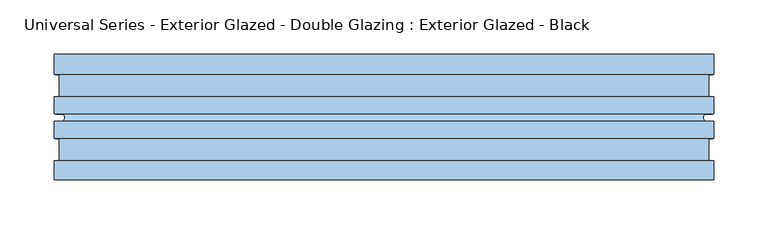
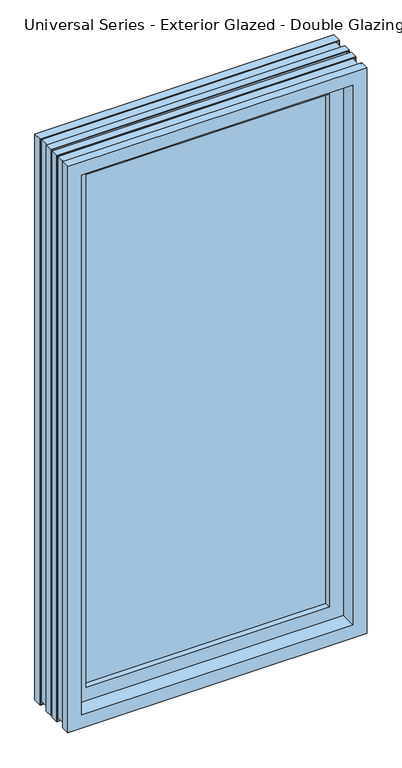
"""IFC4 building model written with IfcOpenShell, lengths in millimetres: window geometry, Universal Series - Exterior Glazed - Double Glazing : Exterior Glazed - Black."""

from ifc_helpers import new_model, si_unit, frame, origin, place, context, project, spatial, polyline, ellipse_curve, outline, extrude, faceted_brep, source, transform, mapped, element, save
from ifc_brep_helpers import plane_surface, revolved_surface, advanced_brep


def universal_series_exterior_glazed_double_glazing_exterior_db7a54f3(model_context):
    return source(origin(), model_context, "Body", "SolidModel", [
        extrude(outline(polyline([(276.225, 101.2023079), (276.225, 96.0429329), (-276.225, 96.0429329), (-276.225, 101.2023079), (276.225, 101.2023079)])), frame((0.0, 0.0, 790.575), z_axis=(0.0, 0.0, 1.0), x_axis=(1.0, 0.0, 0.0)), (0.0, 0.0, 1.0), 1162.05),
        extrude(outline(polyline([(276.225, 77.7866829), (276.225, 72.6273079), (-276.225, 72.6273079), (-276.225, 77.7866829), (276.225, 77.7866829)])), frame((0.0, 0.0, 790.575), z_axis=(0.0, 0.0, 1.0), x_axis=(1.0, 0.0, 0.0)), (0.0, 0.0, 1.0), 1162.05),
        faceted_brep([(276.225, 121.8398079, 1952.625), (252.4125, 101.2023079, 1928.8125), (252.4125, 101.2023079, 814.3875), (276.225, 121.8398079, 790.575), (-252.4125, 101.2023079, 814.3875), (-276.225, 121.8398079, 790.575), (-252.4125, 101.2023079, 1928.8125), (-246.0625, 101.2023079, 820.7375), (-246.0625, 101.2023079, 1922.4625), (246.0625, 101.2023079, 1922.4625), (246.0625, 101.2023079, 820.7375), (-276.225, 121.8398079, 1952.625), (276.225, 140.8898079, 790.575), (-276.225, 140.8898079, 790.575), (276.225, 140.8898079, 1952.625), (-276.225, 140.8898079, 1952.625), (285.75, 140.8898079, 781.05), (285.75, 140.8898079, 1962.15), (-285.75, 140.8898079, 1962.15), (-285.75, 140.8898079, 781.05), (285.75, 142.4773079, 1962.15), (285.75, 142.4773079, 781.05), (-285.75, 142.4773079, 781.05), (-285.75, 142.4773079, 1962.15), (250.825, 142.4773079, 815.975), (250.825, 142.4773079, 1927.225), (-250.825, 142.4773079, 1927.225), (-250.825, 142.4773079, 815.975)], [[[0, 1, 2, 3]], [[3, 2, 4, 5]], [[2, 1, 6, 4], [7, 8, 9, 10]], [[5, 4, 6, 11]], [[12, 3, 5, 13]], [[14, 0, 3, 12]], [[13, 5, 11, 15]], [[16, 17, 18, 19], [13, 15, 14, 12]], [[20, 17, 16, 21]], [[21, 16, 19, 22]], [[22, 19, 18, 23]], [[22, 23, 20, 21], [24, 25, 26, 27]], [[9, 25, 24, 10]], [[10, 24, 27, 7]], [[7, 27, 26, 8]], [[11, 6, 1, 0]], [[15, 11, 0, 14]], [[23, 18, 17, 20]], [[8, 26, 25, 9]]]),
        advanced_brep(
        [(304.8, 44.0523079, 1981.2), (304.8, 26.5898079, 1981.2), (304.8, 26.5898079, 762.0), (304.8, 44.0523079, 762.0), (-304.8, 26.5898079, 762.0), (-304.8, 44.0523079, 762.0), (-304.8, 26.5898079, 1981.2), (-276.225, 26.5898079, 790.575), (-276.225, 26.5898079, 1952.625), (276.225, 26.5898079, 1952.625), (276.225, 26.5898079, 790.575), (-304.8, 44.0523079, 1981.2), (303.609375, 44.0523079, 763.190625), (303.609375, 44.0523079, 1980.009375), (-303.609375, 44.0523079, 1980.009375), (-303.609375, 44.0523079, 763.190625), (302.021875, 40.8773079, 1978.421875), (302.021875, 40.8773079, 764.778125), (-302.021875, 40.8773079, 764.778125), (-302.021875, 40.8773079, 1978.421875), (300.0375, 40.8773079, 766.7625), (300.0375, 40.8773079, 1976.4375), (-300.0375, 40.8773079, 1976.4375), (-300.0375, 40.8773079, 766.7625), (300.0375, 67.8648079, 1976.4375), (300.0375, 67.8648079, 766.7625), (-300.0375, 67.8648079, 766.7625), (-300.0375, 67.8648079, 1976.4375), (302.021875, 67.8648079, 764.778125), (302.021875, 67.8648079, 1978.421875), (-302.021875, 67.8648079, 1978.421875), (-302.021875, 67.8648079, 764.778125), (303.609375, 64.6898079, 1980.009375), (303.609375, 64.6898079, 763.190625), (-303.609375, 64.6898079, 763.190625), (-303.609375, 64.6898079, 1980.009375), (304.8, 64.6898079, 762.0), (304.8, 64.6898079, 1981.2), (-304.8, 64.6898079, 1981.2), (-304.8, 64.6898079, 762.0), (304.8, 80.5648079, 1981.2), (304.8, 80.5648079, 762.0), (-304.8, 80.5648079, 762.0), (-304.8, 80.5648079, 1981.2), (303.2125, 80.5648079, 763.5875), (303.2125, 80.5648079, 1979.6125), (-303.2125, 80.5648079, 1979.6125), (-303.2125, 80.5648079, 763.5875), (303.2125, 87.3, 1979.6125), (303.2125, 87.3, 763.5875), (-303.2125, 87.3, 763.5875), (-303.2125, 87.3, 1979.6125), (304.8, 87.3, 762.0), (304.8, 87.3, 1981.2), (-304.8, 87.3, 1981.2), (-304.8, 87.3, 762.0), (304.8, 103.175, 1981.2), (304.8, 103.175, 762.0), (-304.8, 103.175, 762.0), (-304.8, 103.175, 1981.2), (303.609375, 103.175, 763.190625), (303.609375, 103.175, 1980.009375), (-303.609375, 103.175, 1980.009375), (-303.609375, 103.175, 763.190625), (302.021875, 100.0, 1978.421875), (302.021875, 100.0, 764.778125), (-302.021875, 100.0, 764.778125), (-302.021875, 100.0, 1978.421875), (300.0375, 100.0, 766.7625), (300.0375, 100.0, 1976.4375), (-300.0375, 100.0, 1976.4375), (-300.0375, 100.0, 766.7625), (300.0375, 126.9875, 1976.4375), (300.0375, 126.9875, 766.7625), (-300.0375, 126.9875, 766.7625), (-300.0375, 126.9875, 1976.4375), (302.021875, 126.9875, 764.778125), (302.021875, 126.9875, 1978.421875), (-302.021875, 126.9875, 1978.421875), (-302.021875, 126.9875, 764.778125), (303.609375, 123.8125, 1980.009375), (303.609375, 123.8125, 763.190625), (-303.609375, 123.8125, 763.190625), (-303.609375, 123.8125, 1980.009375), (304.8, 123.8125, 762.0), (304.8, 123.8125, 1981.2), (-304.8, 123.8125, 1981.2), (-304.8, 123.8125, 762.0), (304.8, 142.4773079, 1981.2), (304.8, 142.4773079, 762.0), (-304.8, 142.4773079, 762.0), (-304.8, 142.4773079, 1981.2), (285.75, 142.4773079, 781.05), (285.75, 142.4773079, 1962.15), (-285.75, 142.4773079, 1962.15), (-285.75, 142.4773079, 781.05), (285.75, 128.1898079, 1962.15), (285.75, 128.1898079, 781.05), (-285.75, 128.1898079, 781.05), (-285.75, 128.1898079, 1962.15), (276.225, 128.1898079, 790.575), (276.225, 128.1898079, 1952.625), (-276.225, 128.1898079, 1952.625), (-276.225, 128.1898079, 790.575), (276.225, 72.6273079, 1952.625), (276.225, 72.6273079, 790.575), (-276.225, 72.6273079, 790.575), (-276.225, 72.6273079, 1952.625), (247.65, 72.6273079, 819.15), (247.65, 72.6273079, 1924.05), (-247.65, 72.6273079, 1924.05), (-247.65, 72.6273079, 819.15), (247.65, 59.9273079, 1924.05), (247.65, 59.9273079, 819.15), (-247.65, 59.9273079, 819.15), (-247.65, 59.9273079, 1924.05), (276.225, 59.9273079, 790.575), (276.225, 59.9273079, 1952.625), (-276.225, 59.9273079, 1952.625), (-276.225, 59.9273079, 790.575)],
        [
            (0, 1),
            (1, 2),
            (2, 3),
            (3, 0),
            (2, 4),
            (4, 5),
            (5, 3),
            (1, 6),
            (6, 4),
            (7, 8),
            (8, 9),
            (9, 10),
            (10, 7),
            (6, 11),
            (11, 5),
            (11, 0),
            (12, 13),
            (13, 14),
            (14, 15),
            (15, 12),
            (16, 13),
            (12, 17),
            (17, 16),
            (15, 18),
            (18, 17),
            (14, 19),
            (19, 18),
            (19, 16),
            (20, 21),
            (21, 22),
            (22, 23),
            (23, 20),
            (24, 21),
            (20, 25),
            (25, 24),
            (23, 26),
            (26, 25),
            (22, 27),
            (27, 26),
            (28, 29),
            (29, 30),
            (30, 31),
            (31, 28),
            (27, 24),
            (32, 29),
            (28, 33),
            (33, 32),
            (31, 34),
            (34, 33),
            (30, 35),
            (35, 34),
            (36, 37),
            (37, 38),
            (38, 39),
            (39, 36),
            (35, 32),
            (40, 37),
            (36, 41),
            (41, 40),
            (39, 42),
            (42, 41),
            (38, 43),
            (43, 42),
            (43, 40),
            (44, 45),
            (45, 46),
            (46, 47),
            (47, 44),
            (48, 45, ellipse_curve(frame((299.844904, 83.932404, 1976.244904), z_axis=(-0.7071067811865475, 0.0, 0.7071067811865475), x_axis=(-0.7071067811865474, 0.0, -0.7071067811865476)), 6.7351921, 4.7625)),
            (44, 49, ellipse_curve(frame((299.844904, 83.932404, 766.955096), z_axis=(-0.7071067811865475, 0.0, -0.7071067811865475), x_axis=(0.7071067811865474, 0.0, -0.7071067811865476)), 6.7351921, 4.7625)),
            (49, 48),
            (47, 50, ellipse_curve(frame((-299.844904, 83.932404, 766.955096), z_axis=(-0.7071067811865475, 0.0, 0.7071067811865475), x_axis=(-0.7071067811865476, 0.0, -0.7071067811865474)), 6.7351921, 4.7625)),
            (50, 49),
            (46, 51, ellipse_curve(frame((-299.844904, 83.932404, 1976.244904), z_axis=(0.7071067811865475, 0.0, 0.7071067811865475), x_axis=(-0.7071067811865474, 0.0, 0.7071067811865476)), 6.7351921, 4.7625)),
            (51, 50),
            (52, 53),
            (53, 54),
            (54, 55),
            (55, 52),
            (51, 48),
            (56, 53),
            (52, 57),
            (57, 56),
            (55, 58),
            (58, 57),
            (54, 59),
            (59, 58),
            (59, 56),
            (60, 61),
            (61, 62),
            (62, 63),
            (63, 60),
            (64, 61),
            (60, 65),
            (65, 64),
            (63, 66),
            (66, 65),
            (62, 67),
            (67, 66),
            (67, 64),
            (68, 69),
            (69, 70),
            (70, 71),
            (71, 68),
            (72, 69),
            (68, 73),
            (73, 72),
            (71, 74),
            (74, 73),
            (70, 75),
            (75, 74),
            (76, 77),
            (77, 78),
            (78, 79),
            (79, 76),
            (75, 72),
            (80, 77),
            (76, 81),
            (81, 80),
            (79, 82),
            (82, 81),
            (78, 83),
            (83, 82),
            (84, 85),
            (85, 86),
            (86, 87),
            (87, 84),
            (83, 80),
            (88, 85),
            (84, 89),
            (89, 88),
            (87, 90),
            (90, 89),
            (86, 91),
            (91, 90),
            (91, 88),
            (92, 93),
            (93, 94),
            (94, 95),
            (95, 92),
            (96, 93),
            (92, 97),
            (97, 96),
            (95, 98),
            (98, 97),
            (94, 99),
            (99, 98),
            (99, 96),
            (100, 101),
            (101, 102),
            (102, 103),
            (103, 100),
            (104, 101),
            (100, 105),
            (105, 104),
            (103, 106),
            (106, 105),
            (102, 107),
            (107, 106),
            (107, 104),
            (108, 109),
            (109, 110),
            (110, 111),
            (111, 108),
            (112, 109),
            (108, 113),
            (113, 112),
            (111, 114),
            (114, 113),
            (110, 115),
            (115, 114),
            (116, 117),
            (117, 118),
            (118, 119),
            (119, 116),
            (115, 112),
            (9, 117),
            (116, 10),
            (119, 7),
            (118, 8),
        ],
        [
            plane_surface(frame((304.8, 26.5898079, 1981.2), z_axis=(1.0, 0.0, 0.0), x_axis=(0.0, 0.0, -1.0))),
            plane_surface(frame((304.8, 26.5898079, 762.0), z_axis=(0.0, 0.0, -1.0), x_axis=(-1.0, 0.0, 0.0))),
            plane_surface(frame((276.225, 26.5898079, 1952.625), z_axis=(0.0, -1.0, 0.0), x_axis=(0.0, 0.0, -1.0))),
            plane_surface(frame((-304.8, 26.5898079, 762.0), z_axis=(-1.0, 0.0, 0.0), x_axis=(0.0, 0.0, 1.0))),
            plane_surface(frame((304.8, 44.0523079, 1981.2), z_axis=(0.0, 1.0, 0.0), x_axis=(0.0, 0.0, -1.0))),
            plane_surface(frame((303.609375, 44.0523079, 1980.009375), z_axis=(-0.8944271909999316, 0.4472135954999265, 0.0), x_axis=(0.0, 0.0, -1.0))),
            plane_surface(frame((303.609375, 44.0523079, 763.190625), z_axis=(0.0, 0.4472135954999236, 0.8944271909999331), x_axis=(-1.0, 0.0, 0.0))),
            plane_surface(frame((-303.609375, 44.0523079, 763.190625), z_axis=(0.8944271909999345, 0.44721359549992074, 0.0), x_axis=(0.0, 0.0, 1.0))),
            plane_surface(frame((302.021875, 40.8773079, 1978.421875), z_axis=(0.0, 1.0, 0.0), x_axis=(0.0, 0.0, -1.0))),
            plane_surface(frame((300.0375, 40.8773079, 1976.4375), z_axis=(1.0, 0.0, 0.0), x_axis=(0.0, 0.0, -1.0))),
            plane_surface(frame((300.0375, 40.8773079, 766.7625), z_axis=(0.0, 0.0, -1.0), x_axis=(-1.0, 0.0, 0.0))),
            plane_surface(frame((-300.0375, 40.8773079, 766.7625), z_axis=(-1.0, 0.0, 0.0), x_axis=(0.0, 0.0, 1.0))),
            plane_surface(frame((300.0375, 67.8648079, 1976.4375), z_axis=(0.0, -1.0, 0.0), x_axis=(0.0, 0.0, -1.0))),
            plane_surface(frame((302.021875, 67.8648079, 1978.421875), z_axis=(-0.894427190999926, -0.44721359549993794, 0.0), x_axis=(0.0, 0.0, -1.0))),
            plane_surface(frame((302.021875, 67.8648079, 764.778125), z_axis=(0.0, -0.44721359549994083, 0.8944271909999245), x_axis=(-1.0, 0.0, 0.0))),
            plane_surface(frame((-302.021875, 67.8648079, 764.778125), z_axis=(0.8944271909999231, -0.4472135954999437, 0.0), x_axis=(0.0, 0.0, 1.0))),
            plane_surface(frame((303.609375, 64.6898079, 1980.009375), z_axis=(0.0, -1.0, 0.0), x_axis=(0.0, 0.0, -1.0))),
            plane_surface(frame((304.8, 64.6898079, 1981.2), z_axis=(1.0, 0.0, 0.0), x_axis=(0.0, 0.0, -1.0))),
            plane_surface(frame((304.8, 64.6898079, 762.0), z_axis=(0.0, 0.0, -1.0), x_axis=(-1.0, 0.0, 0.0))),
            plane_surface(frame((-304.8, 64.6898079, 762.0), z_axis=(-1.0, 0.0, 0.0), x_axis=(0.0, 0.0, 1.0))),
            plane_surface(frame((304.8, 80.5648079, 1981.2), z_axis=(0.0, 1.0, 0.0), x_axis=(0.0, 0.0, -1.0))),
            revolved_surface(polyline([(299.844904, 79.169904, 762.1925959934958), (299.844904, 79.169904, 1981.007404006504)]), (299.844904, 83.932404, 1981.2), (0.0, 0.0, -1.0)),
            revolved_surface(polyline([(-304.60740400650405, 79.169904, 766.955096), (304.60740400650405, 79.169904, 766.955096)]), (304.8, 83.932404, 766.955096), (-1.0, 0.0, 0.0)),
            revolved_surface(polyline([(-299.844904, 79.169904, 1981.007404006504), (-299.844904, 79.169904, 762.192595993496)]), (-299.844904, 83.932404, 762.0), (0.0, 0.0, 1.0)),
            plane_surface(frame((303.2125, 87.3, 1979.6125), z_axis=(0.0, -1.0, 0.0), x_axis=(0.0, 0.0, -1.0))),
            plane_surface(frame((304.8, 87.3, 1981.2), z_axis=(1.0, 0.0, 0.0), x_axis=(0.0, 0.0, -1.0))),
            plane_surface(frame((304.8, 87.3, 762.0), z_axis=(0.0, 0.0, -1.0), x_axis=(-1.0, 0.0, 0.0))),
            plane_surface(frame((-304.8, 87.3, 762.0), z_axis=(-1.0, 0.0, 0.0), x_axis=(0.0, 0.0, 1.0))),
            plane_surface(frame((304.8, 103.175, 1981.2), z_axis=(0.0, 1.0, 0.0), x_axis=(0.0, 0.0, -1.0))),
            plane_surface(frame((303.609375, 103.175, 1980.009375), z_axis=(-0.8944271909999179, 0.44721359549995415, 0.0), x_axis=(0.0, 0.0, -1.0))),
            plane_surface(frame((303.609375, 103.175, 763.190625), z_axis=(0.0, 0.44721359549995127, 0.8944271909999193), x_axis=(-1.0, 0.0, 0.0))),
            plane_surface(frame((-303.609375, 103.175, 763.190625), z_axis=(0.8944271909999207, 0.4472135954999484, 0.0), x_axis=(0.0, 0.0, 1.0))),
            plane_surface(frame((302.021875, 100.0, 1978.421875), z_axis=(0.0, 1.0, 0.0), x_axis=(0.0, 0.0, -1.0))),
            plane_surface(frame((300.0375, 100.0, 1976.4375), z_axis=(1.0, 0.0, 0.0), x_axis=(0.0, 0.0, -1.0))),
            plane_surface(frame((300.0375, 100.0, 766.7625), z_axis=(0.0, 0.0, -1.0), x_axis=(-1.0, 0.0, 0.0))),
            plane_surface(frame((-300.0375, 100.0, 766.7625), z_axis=(-1.0, 0.0, 0.0), x_axis=(0.0, 0.0, 1.0))),
            plane_surface(frame((300.0375, 126.9875, 1976.4375), z_axis=(0.0, -1.0, 0.0), x_axis=(0.0, 0.0, -1.0))),
            plane_surface(frame((302.021875, 126.9875, 1978.421875), z_axis=(-0.8944271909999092, -0.4472135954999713, 0.0), x_axis=(0.0, 0.0, -1.0))),
            plane_surface(frame((302.021875, 126.9875, 764.778125), z_axis=(0.0, -0.4472135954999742, 0.8944271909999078), x_axis=(-1.0, 0.0, 0.0))),
            plane_surface(frame((-302.021875, 126.9875, 764.778125), z_axis=(0.8944271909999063, -0.4472135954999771, 0.0), x_axis=(0.0, 0.0, 1.0))),
            plane_surface(frame((303.609375, 123.8125, 1980.009375), z_axis=(0.0, -1.0, 0.0), x_axis=(0.0, 0.0, -1.0))),
            plane_surface(frame((304.8, 123.8125, 1981.2), z_axis=(1.0, 0.0, 0.0), x_axis=(0.0, 0.0, -1.0))),
            plane_surface(frame((304.8, 123.8125, 762.0), z_axis=(0.0, 0.0, -1.0), x_axis=(-1.0, 0.0, 0.0))),
            plane_surface(frame((-304.8, 123.8125, 762.0), z_axis=(-1.0, 0.0, 0.0), x_axis=(0.0, 0.0, 1.0))),
            plane_surface(frame((304.8, 142.4773079, 1981.2), z_axis=(0.0, 1.0, 0.0), x_axis=(0.0, 0.0, -1.0))),
            plane_surface(frame((285.75, 142.4773079, 1962.15), z_axis=(-1.0, 0.0, 0.0), x_axis=(0.0, 0.0, -1.0))),
            plane_surface(frame((285.75, 142.4773079, 781.05), z_axis=(0.0, 0.0, 1.0), x_axis=(-1.0, 0.0, 0.0))),
            plane_surface(frame((-285.75, 142.4773079, 781.05), z_axis=(1.0, 0.0, 0.0), x_axis=(0.0, 0.0, 1.0))),
            plane_surface(frame((285.75, 128.1898079, 1962.15), z_axis=(0.0, 1.0, 0.0), x_axis=(0.0, 0.0, -1.0))),
            plane_surface(frame((276.225, 128.1898079, 1952.625), z_axis=(-1.0, 0.0, 0.0), x_axis=(0.0, 0.0, -1.0))),
            plane_surface(frame((276.225, 128.1898079, 790.575), z_axis=(0.0, 0.0, 1.0), x_axis=(-1.0, 0.0, 0.0))),
            plane_surface(frame((-276.225, 128.1898079, 790.575), z_axis=(1.0, 0.0, 0.0), x_axis=(0.0, 0.0, 1.0))),
            plane_surface(frame((276.225, 72.6273079, 1952.625), z_axis=(0.0, 1.0, 0.0), x_axis=(0.0, 0.0, -1.0))),
            plane_surface(frame((247.65, 72.6273079, 1924.05), z_axis=(-1.0, 0.0, 0.0), x_axis=(0.0, 0.0, -1.0))),
            plane_surface(frame((247.65, 72.6273079, 819.15), z_axis=(0.0, 0.0, 1.0), x_axis=(-1.0, 0.0, 0.0))),
            plane_surface(frame((-247.65, 72.6273079, 819.15), z_axis=(1.0, 0.0, 0.0), x_axis=(0.0, 0.0, 1.0))),
            plane_surface(frame((247.65, 59.9273079, 1924.05), z_axis=(0.0, -1.0, 0.0), x_axis=(0.0, 0.0, -1.0))),
            plane_surface(frame((276.225, 59.9273079, 1952.625), z_axis=(-1.0, 0.0, 0.0), x_axis=(0.0, 0.0, -1.0))),
            plane_surface(frame((276.225, 59.9273079, 790.575), z_axis=(0.0, 0.0, 1.0), x_axis=(-1.0, 0.0, 0.0))),
            plane_surface(frame((-276.225, 59.9273079, 790.575), z_axis=(1.0, 0.0, 0.0), x_axis=(0.0, 0.0, 1.0))),
            plane_surface(frame((-304.8, 26.5898079, 1981.2), z_axis=(0.0, 0.0, 1.0), x_axis=(1.0, 0.0, 0.0))),
            plane_surface(frame((-303.609375, 44.0523079, 1980.009375), z_axis=(0.0, 0.4472135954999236, -0.8944271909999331), x_axis=(1.0, 0.0, 0.0))),
            plane_surface(frame((-300.0375, 40.8773079, 1976.4375), z_axis=(0.0, 0.0, 1.0), x_axis=(1.0, 0.0, 0.0))),
            plane_surface(frame((-302.021875, 67.8648079, 1978.421875), z_axis=(0.0, -0.44721359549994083, -0.8944271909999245), x_axis=(1.0, 0.0, 0.0))),
            plane_surface(frame((-304.8, 64.6898079, 1981.2), z_axis=(0.0, 0.0, 1.0), x_axis=(1.0, 0.0, 0.0))),
            revolved_surface(polyline([(304.60740400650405, 79.169904, 1976.244904), (-304.60740400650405, 79.169904, 1976.244904)]), (-304.8, 83.932404, 1976.244904), (1.0, 0.0, 0.0)),
            plane_surface(frame((-304.8, 87.3, 1981.2), z_axis=(0.0, 0.0, 1.0), x_axis=(1.0, 0.0, 0.0))),
            plane_surface(frame((-303.609375, 103.175, 1980.009375), z_axis=(0.0, 0.44721359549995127, -0.8944271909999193), x_axis=(1.0, 0.0, 0.0))),
            plane_surface(frame((-300.0375, 100.0, 1976.4375), z_axis=(0.0, 0.0, 1.0), x_axis=(1.0, 0.0, 0.0))),
            plane_surface(frame((-302.021875, 126.9875, 1978.421875), z_axis=(0.0, -0.4472135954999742, -0.8944271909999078), x_axis=(1.0, 0.0, 0.0))),
            plane_surface(frame((-304.8, 123.8125, 1981.2), z_axis=(0.0, 0.0, 1.0), x_axis=(1.0, 0.0, 0.0))),
            plane_surface(frame((-285.75, 142.4773079, 1962.15), z_axis=(0.0, 0.0, -1.0), x_axis=(1.0, 0.0, 0.0))),
            plane_surface(frame((-276.225, 128.1898079, 1952.625), z_axis=(0.0, 0.0, -1.0), x_axis=(1.0, 0.0, 0.0))),
            plane_surface(frame((-247.65, 72.6273079, 1924.05), z_axis=(0.0, 0.0, -1.0), x_axis=(1.0, 0.0, 0.0))),
            plane_surface(frame((-276.225, 59.9273079, 1952.625), z_axis=(0.0, 0.0, -1.0), x_axis=(1.0, 0.0, 0.0))),
        ],
        [
            (0, [[1, 2, 3, 4]]),
            (1, [[-3, 5, 6, 7]]),
            (2, [[-2, 8, 9, -5], [10, 11, 12, 13]]),
            (3, [[-6, -9, 14, 15]]),
            (4, [[-15, 16, -4, -7], [17, 18, 19, 20]]),
            (5, [[21, -17, 22, 23]]),
            (6, [[-22, -20, 24, 25]]),
            (7, [[-24, -19, 26, 27]]),
            (8, [[-27, 28, -23, -25], [29, 30, 31, 32]]),
            (9, [[33, -29, 34, 35]]),
            (10, [[-34, -32, 36, 37]]),
            (11, [[-36, -31, 38, 39]]),
            (12, [[40, 41, 42, 43], [-39, 44, -35, -37]]),
            (13, [[45, -40, 46, 47]]),
            (14, [[-46, -43, 48, 49]]),
            (15, [[-48, -42, 50, 51]]),
            (16, [[52, 53, 54, 55], [-51, 56, -47, -49]]),
            (17, [[57, -52, 58, 59]]),
            (18, [[-58, -55, 60, 61]]),
            (19, [[-60, -54, 62, 63]]),
            (20, [[-63, 64, -59, -61], [65, 66, 67, 68]]),
            (21, [[69, -65, 70, 71]]),
            (22, [[-70, -68, 72, 73]]),
            (23, [[-72, -67, 74, 75]]),
            (24, [[76, 77, 78, 79], [-75, 80, -71, -73]]),
            (25, [[81, -76, 82, 83]]),
            (26, [[-82, -79, 84, 85]]),
            (27, [[-84, -78, 86, 87]]),
            (28, [[-87, 88, -83, -85], [89, 90, 91, 92]]),
            (29, [[93, -89, 94, 95]]),
            (30, [[-94, -92, 96, 97]]),
            (31, [[-96, -91, 98, 99]]),
            (32, [[-99, 100, -95, -97], [101, 102, 103, 104]]),
            (33, [[105, -101, 106, 107]]),
            (34, [[-106, -104, 108, 109]]),
            (35, [[-108, -103, 110, 111]]),
            (36, [[112, 113, 114, 115], [-111, 116, -107, -109]]),
            (37, [[117, -112, 118, 119]]),
            (38, [[-118, -115, 120, 121]]),
            (39, [[-120, -114, 122, 123]]),
            (40, [[124, 125, 126, 127], [-123, 128, -119, -121]]),
            (41, [[129, -124, 130, 131]]),
            (42, [[-130, -127, 132, 133]]),
            (43, [[-132, -126, 134, 135]]),
            (44, [[-135, 136, -131, -133], [137, 138, 139, 140]]),
            (45, [[141, -137, 142, 143]]),
            (46, [[-142, -140, 144, 145]]),
            (47, [[-144, -139, 146, 147]]),
            (48, [[-147, 148, -143, -145], [149, 150, 151, 152]]),
            (49, [[153, -149, 154, 155]]),
            (50, [[-154, -152, 156, 157]]),
            (51, [[-156, -151, 158, 159]]),
            (52, [[-159, 160, -155, -157], [161, 162, 163, 164]]),
            (53, [[165, -161, 166, 167]]),
            (54, [[-166, -164, 168, 169]]),
            (55, [[-168, -163, 170, 171]]),
            (56, [[172, 173, 174, 175], [-171, 176, -167, -169]]),
            (57, [[177, -172, 178, -12]]),
            (58, [[-178, -175, 179, -13]]),
            (59, [[-179, -174, 180, -10]]),
            (60, [[-14, -8, -1, -16]]),
            (61, [[-26, -18, -21, -28]]),
            (62, [[-38, -30, -33, -44]]),
            (63, [[-50, -41, -45, -56]]),
            (64, [[-62, -53, -57, -64]]),
            (65, [[-74, -66, -69, -80]]),
            (66, [[-86, -77, -81, -88]]),
            (67, [[-98, -90, -93, -100]]),
            (68, [[-110, -102, -105, -116]]),
            (69, [[-122, -113, -117, -128]]),
            (70, [[-134, -125, -129, -136]]),
            (71, [[-146, -138, -141, -148]]),
            (72, [[-158, -150, -153, -160]]),
            (73, [[-170, -162, -165, -176]]),
            (74, [[-180, -173, -177, -11]]),
        ],
    ),
    ])


if __name__ == "__main__":
    model = new_model("IFC4")
    model_context = context("Model", 3, world=origin())
    ifc_project = project(units=[si_unit("LENGTHUNIT", "METRE", prefix="MILLI")], contexts=[model_context])
    site = spatial("IfcSite", under=ifc_project)
    building = spatial("IfcBuilding", under=site)
    placement = place(None, origin())
    universal_series_exterior_glazed_double_glazing_exterior_shape = universal_series_exterior_glazed_double_glazing_exterior_db7a54f3(model_context)
    element("IfcWindow", 1, ObjectType="Universal Series - Exterior Glazed - Double Glazing : Exterior Glazed - Black", at=placement, inside=building, context=model_context, shape_type="MappedRepresentation", body=[
        mapped(universal_series_exterior_glazed_double_glazing_exterior_shape, transform((0.0, 0.0, 0.0), x_axis=(1.0, 0.0, 0.0), y_axis=(0.0, 1.0, 0.0), z_axis=(0.0, 0.0, 1.0))),
    ])
    save(model, "model.ifc")
